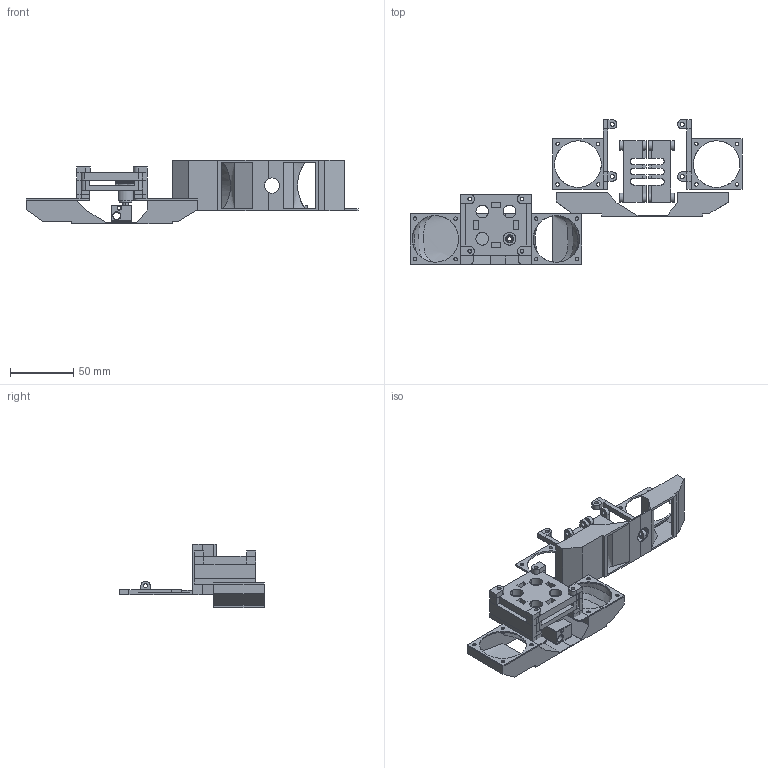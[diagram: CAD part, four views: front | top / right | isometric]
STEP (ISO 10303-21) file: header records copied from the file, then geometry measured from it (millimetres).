
FILE_DESCRIPTION(/* description */ (''),/* implementation_level */ '2;1');
FILE_NAME(/* name */ 'umofancap40x40',/* time_stamp */ '2016-04-28T13:51:12+02:00',/* author */ (''),/* organization */ (''),/* preprocessor_version */ 'ST-DEVELOPER v15',/* originating_system */ '',/* authorisation */ '');
FILE_SCHEMA (('AUTOMOTIVE_DESIGN'));
Length unit declared in the file: millimetre
Products named in the file (6): Document; 1053-A2P-A; 1048-A2P-A; 1067-Z1P-A; 1049-A2P-A; 1061-A2P-B
Assembly tree (9 placements, depth 2):
  Document
    1053-A2P-A  x2
    1048-A2P-A  x2
    1067-Z1P-A  x2
    1049-A2P-A  x2
    1061-A2P-B
Bounding box: 261.89 x 114.04 x 50.2 mm (x, y, z)
Volume: 115144.5 mm3; surface area: 95788 mm2
Topology: 26 solids, 26 shells, 1266 faces, 3377 edges, 2190 vertices
Faces by surface type: bspline 1266
Entity records: 64654 total; most frequent: CARTESIAN_POINT 32173, B_SPLINE_CURVE_WITH_KNOTS 6343, ORIENTED_EDGE 5042, PCURVE 5042, DEFINITIONAL_REPRESENTATION 5042, SURFACE_CURVE 2521, EDGE_CURVE 2521, VERTEX_POINT 1613
